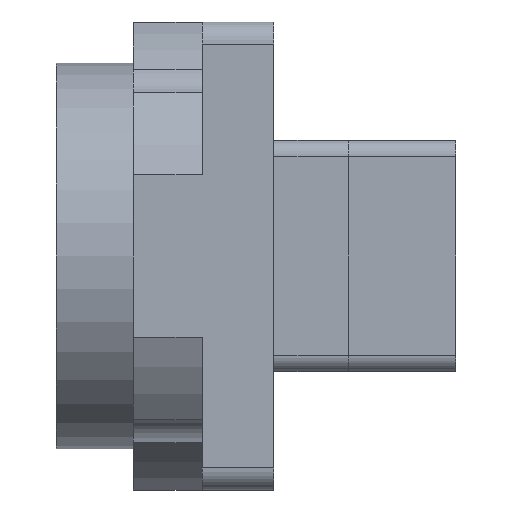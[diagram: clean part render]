
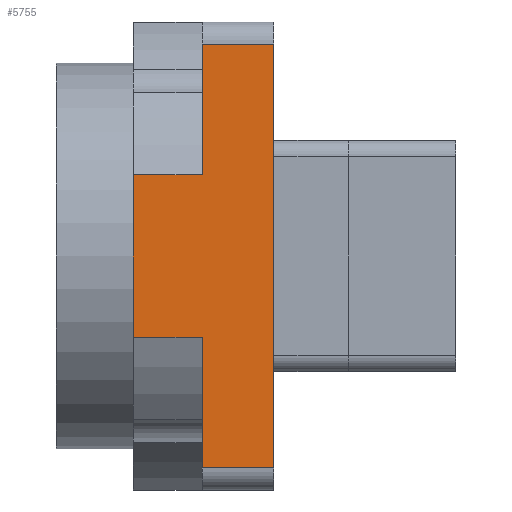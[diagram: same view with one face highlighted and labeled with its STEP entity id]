
A CAD part, left-side view. The second image highlights one B-rep face of the part: STEP entity #5755.
In plain terms, the highlighted planar face has unit normal (-1, 0, 0).
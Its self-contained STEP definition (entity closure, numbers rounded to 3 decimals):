
#98 = DIRECTION ( 'NONE',  ( 0., -1., 0. ) ) ;
#384 = CARTESIAN_POINT ( 'NONE',  ( -42.5, 13., -38.5 ) ) ;
#454 = EDGE_CURVE ( 'NONE', #4622, #3391, #5576, .T. ) ;
#460 = CARTESIAN_POINT ( 'NONE',  ( -42.5, 13., -38.5 ) ) ;
#573 = EDGE_CURVE ( 'NONE', #4622, #8569, #2330, .T. ) ;
#945 = VERTEX_POINT ( 'NONE', #4484 ) ;
#1228 = EDGE_CURVE ( 'NONE', #5482, #3867, #9886, .T. ) ;
#1238 = EDGE_CURVE ( 'NONE', #1490, #945, #2079, .T. ) ;
#1464 = DIRECTION ( 'NONE',  ( 0., -1., 0. ) ) ;
#1490 = VERTEX_POINT ( 'NONE', #7471 ) ;
#1565 = CARTESIAN_POINT ( 'NONE',  ( -42.5, 25.5, -14.79 ) ) ;
#1856 = VERTEX_POINT ( 'NONE', #6006 ) ;
#2009 = PLANE ( 'NONE',  #8019 ) ;
#2054 = FACE_OUTER_BOUND ( 'NONE', #4076, .T. ) ;
#2079 = LINE ( 'NONE', #5219, #4127 ) ;
#2215 = ORIENTED_EDGE ( 'NONE', *, *, #573, .T. ) ;
#2251 = DIRECTION ( 'NONE',  ( 0., 0., 1. ) ) ;
#2330 = LINE ( 'NONE', #1565, #4092 ) ;
#2857 = DIRECTION ( 'NONE',  ( 0., -1., 0. ) ) ;
#3152 = CARTESIAN_POINT ( 'NONE',  ( -42.5, 13., 38.5 ) ) ;
#3391 = VERTEX_POINT ( 'NONE', #6627 ) ;
#3848 = DIRECTION ( 'NONE',  ( 0., 0., 1. ) ) ;
#3867 = VERTEX_POINT ( 'NONE', #5828 ) ;
#4042 = DIRECTION ( 'NONE',  ( 0., 0., 1. ) ) ;
#4051 = ORIENTED_EDGE ( 'NONE', *, *, #1238, .T. ) ;
#4076 = EDGE_LOOP ( 'NONE', ( #5417, #7300, #6271, #4556, #6947, #2215, #9902, #4051 ) ) ;
#4092 = VECTOR ( 'NONE', #1464, 1000. ) ;
#4127 = VECTOR ( 'NONE', #4459, 1000. ) ;
#4364 = LINE ( 'NONE', #460, #8286 ) ;
#4459 = DIRECTION ( 'NONE',  ( 0., -1., 0. ) ) ;
#4484 = CARTESIAN_POINT ( 'NONE',  ( -42.5, 0., -38.5 ) ) ;
#4556 = ORIENTED_EDGE ( 'NONE', *, *, #6842, .F. ) ;
#4622 = VERTEX_POINT ( 'NONE', #8058 ) ;
#5219 = CARTESIAN_POINT ( 'NONE',  ( -42.5, 13., -38.5 ) ) ;
#5317 = VECTOR ( 'NONE', #2251, 1000. ) ;
#5342 = EDGE_CURVE ( 'NONE', #945, #3867, #5795, .T. ) ;
#5417 = ORIENTED_EDGE ( 'NONE', *, *, #5342, .T. ) ;
#5482 = VERTEX_POINT ( 'NONE', #3152 ) ;
#5576 = LINE ( 'NONE', #8024, #8271 ) ;
#5582 = CARTESIAN_POINT ( 'NONE',  ( -42.5, 25.5, 14.79 ) ) ;
#5755 = ADVANCED_FACE ( 'NONE', ( #2054 ), #2009, .F. ) ;
#5795 = LINE ( 'NONE', #8141, #6226 ) ;
#5828 = CARTESIAN_POINT ( 'NONE',  ( -42.5, 0., 38.5 ) ) ;
#6006 = CARTESIAN_POINT ( 'NONE',  ( -42.5, 13., 14.79 ) ) ;
#6226 = VECTOR ( 'NONE', #9097, 1000. ) ;
#6271 = ORIENTED_EDGE ( 'NONE', *, *, #7855, .F. ) ;
#6627 = CARTESIAN_POINT ( 'NONE',  ( -42.5, 25.5, 14.79 ) ) ;
#6842 = EDGE_CURVE ( 'NONE', #3391, #1856, #7979, .T. ) ;
#6881 = LINE ( 'NONE', #7695, #5317 ) ;
#6947 = ORIENTED_EDGE ( 'NONE', *, *, #454, .F. ) ;
#7300 = ORIENTED_EDGE ( 'NONE', *, *, #1228, .F. ) ;
#7471 = CARTESIAN_POINT ( 'NONE',  ( -42.5, 13., -38.5 ) ) ;
#7695 = CARTESIAN_POINT ( 'NONE',  ( -42.5, 13., -38.5 ) ) ;
#7855 = EDGE_CURVE ( 'NONE', #1856, #5482, #4364, .T. ) ;
#7979 = LINE ( 'NONE', #5582, #9990 ) ;
#8019 = AXIS2_PLACEMENT_3D ( 'NONE', #384, #8982, #8317 ) ;
#8024 = CARTESIAN_POINT ( 'NONE',  ( -42.5, 25.5, 14.79 ) ) ;
#8058 = CARTESIAN_POINT ( 'NONE',  ( -42.5, 25.5, -14.79 ) ) ;
#8141 = CARTESIAN_POINT ( 'NONE',  ( -42.5, 0., -38.5 ) ) ;
#8225 = CARTESIAN_POINT ( 'NONE',  ( -42.5, 13., -14.79 ) ) ;
#8271 = VECTOR ( 'NONE', #4042, 1000. ) ;
#8286 = VECTOR ( 'NONE', #3848, 1000. ) ;
#8317 = DIRECTION ( 'NONE',  ( 0., 0., -1. ) ) ;
#8569 = VERTEX_POINT ( 'NONE', #8225 ) ;
#8982 = DIRECTION ( 'NONE',  ( 1., 0., 0. ) ) ;
#9018 = VECTOR ( 'NONE', #2857, 1000. ) ;
#9097 = DIRECTION ( 'NONE',  ( 0., 0., 1. ) ) ;
#9270 = CARTESIAN_POINT ( 'NONE',  ( -42.5, 13., 38.5 ) ) ;
#9886 = LINE ( 'NONE', #9270, #9018 ) ;
#9902 = ORIENTED_EDGE ( 'NONE', *, *, #10044, .F. ) ;
#9990 = VECTOR ( 'NONE', #98, 1000. ) ;
#10044 = EDGE_CURVE ( 'NONE', #1490, #8569, #6881, .T. ) ;
